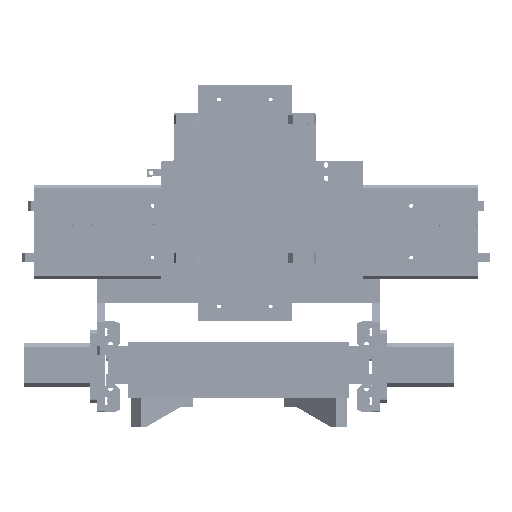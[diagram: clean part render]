
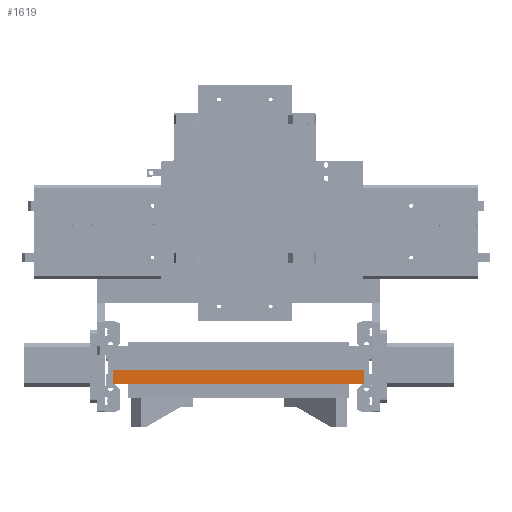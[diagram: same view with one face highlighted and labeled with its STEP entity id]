
A CAD part, left-side view. The second image highlights one B-rep face of the part: STEP entity #1619.
In plain terms, the highlighted planar face has unit normal (-1, 0, 0).
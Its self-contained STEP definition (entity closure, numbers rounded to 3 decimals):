
#1619=ADVANCED_FACE('',(#4258),#45561,.T.);
#4258=FACE_OUTER_BOUND('',#6950,.T.);
#6950=EDGE_LOOP('',(#11356,#11357,#11358,#11359));
#11356=ORIENTED_EDGE('',*,*,#25211,.T.);
#11357=ORIENTED_EDGE('',*,*,#25216,.T.);
#11358=ORIENTED_EDGE('',*,*,#25215,.F.);
#11359=ORIENTED_EDGE('',*,*,#25219,.F.);
#25211=EDGE_CURVE('',#39494,#39491,#37035,.T.);
#25215=EDGE_CURVE('',#39498,#39495,#37039,.T.);
#25216=EDGE_CURVE('',#39491,#39495,#37040,.T.);
#25219=EDGE_CURVE('',#39494,#39498,#37043,.T.);
#37035=B_SPLINE_CURVE_WITH_KNOTS('',1,(#52069,#52070),.UNSPECIFIED.,.F.,
 .F.,(2,2),(0.,360.),.UNSPECIFIED.);
#37039=B_SPLINE_CURVE_WITH_KNOTS('',1,(#52077,#52078),.UNSPECIFIED.,.F.,
 .F.,(2,2),(0.,360.),.UNSPECIFIED.);
#37040=B_SPLINE_CURVE_WITH_KNOTS('',1,(#52079,#52080),.UNSPECIFIED.,.F.,
 .F.,(2,2),(0.,58.),.UNSPECIFIED.);
#37043=B_SPLINE_CURVE_WITH_KNOTS('',1,(#52085,#52086),.UNSPECIFIED.,.F.,
 .F.,(2,2),(0.,58.),.UNSPECIFIED.);
#39491=VERTEX_POINT('',#51743);
#39494=VERTEX_POINT('',#51746);
#39495=VERTEX_POINT('',#51747);
#39498=VERTEX_POINT('',#51750);
#45561=PLANE('',#46644);
#46644=AXIS2_PLACEMENT_3D('',#51115,#47711,$);
#47711=DIRECTION('',(-1.,0.,0.));
#51115=CARTESIAN_POINT('',(-874.666,2120.579,-33.));
#51743=CARTESIAN_POINT('',(-874.666,1780.579,-33.));
#51746=CARTESIAN_POINT('',(-874.666,2120.579,-33.));
#51747=CARTESIAN_POINT('',(-874.666,1780.579,-14.));
#51750=CARTESIAN_POINT('',(-874.666,2120.579,-14.));
#52069=CARTESIAN_POINT('',(-874.666,2120.579,-33.));
#52070=CARTESIAN_POINT('',(-874.666,1780.579,-33.));
#52077=CARTESIAN_POINT('',(-874.666,2120.579,-14.));
#52078=CARTESIAN_POINT('',(-874.666,1780.579,-14.));
#52079=CARTESIAN_POINT('',(-874.666,1780.579,-33.));
#52080=CARTESIAN_POINT('',(-874.666,1780.579,-14.));
#52085=CARTESIAN_POINT('',(-874.666,2120.579,-33.));
#52086=CARTESIAN_POINT('',(-874.666,2120.579,-14.));
